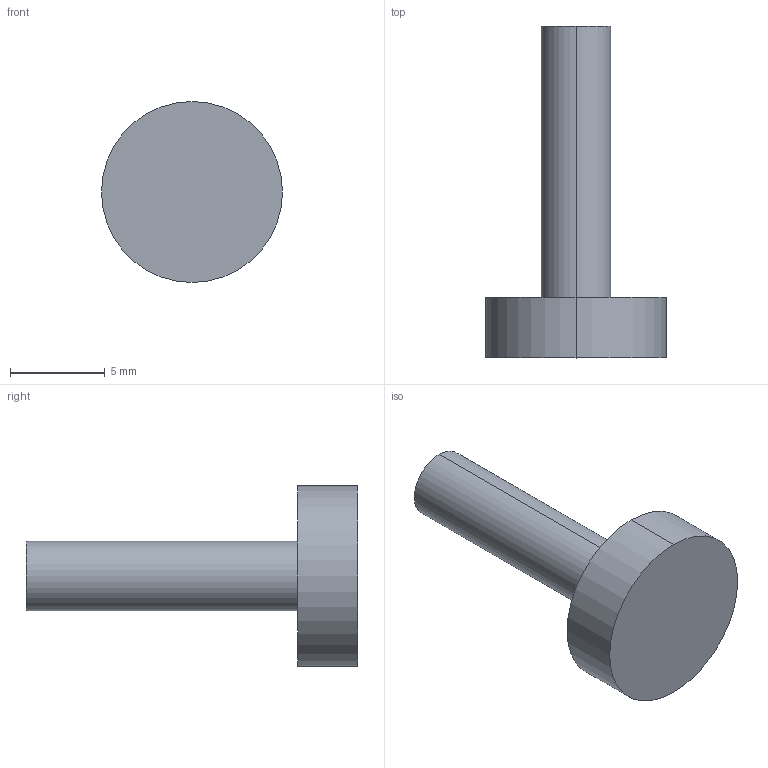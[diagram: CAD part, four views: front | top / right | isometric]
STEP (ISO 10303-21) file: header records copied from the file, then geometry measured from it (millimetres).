
FILE_DESCRIPTION (( 'STEP AP214' ), '1' );
FILE_NAME ('10 - Point Slider (Quantity 5).STEP', '2022-11-25T05:46:54', ( '' ), ( '' ), 'SwSTEP 2.0', 'SolidWorks 2021', '' );
FILE_SCHEMA (( 'AUTOMOTIVE_DESIGN' ));
Length unit declared in the file: inch
Products named in the file (1): 10 - Point Slider (Quantity 5)
Bounding box: 9.53 x 17.46 x 9.53 mm (x, y, z)
Volume: 378.4 mm3; surface area: 402.8 mm2
Topology: 1 solids, 1 shells, 7 faces, 12 edges, 8 vertices
Faces by surface type: cylinder 4, plane 3
Entity records: 214 total; most frequent: DIRECTION 36, CARTESIAN_POINT 28, ORIENTED_EDGE 24, AXIS2_PLACEMENT_3D 16, EDGE_CURVE 12, VERTEX_POINT 8, EDGE_LOOP 8, CIRCLE 8
